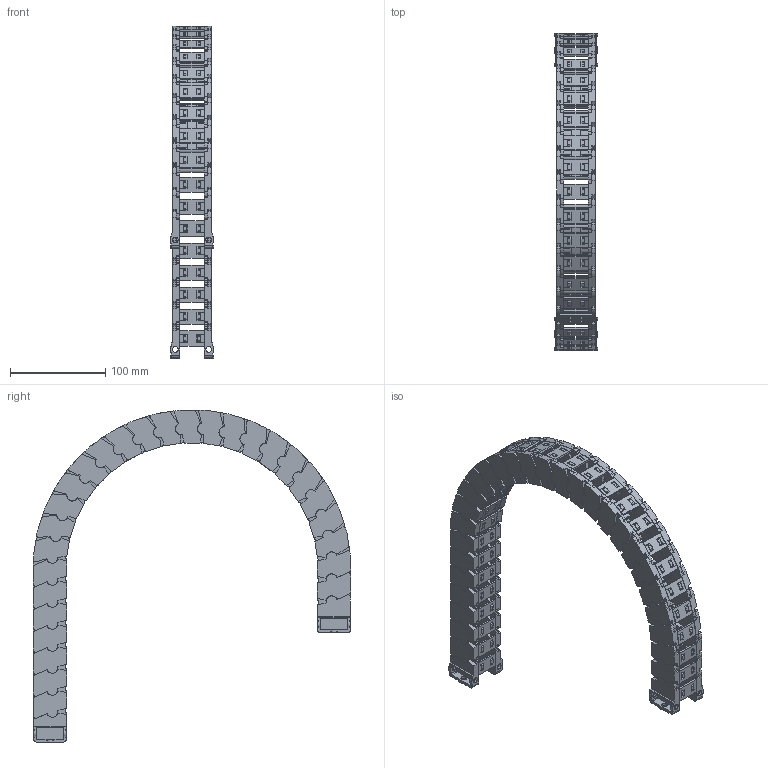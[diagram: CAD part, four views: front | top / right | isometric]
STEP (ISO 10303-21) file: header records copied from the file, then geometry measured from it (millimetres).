
FILE_DESCRIPTION((''),'2;1');
FILE_NAME('JY-25X25-R150_ASM','2022-05-07T11:14:07',('admin'),(''),'CREO PARAMETRIC BY PTC INC, 2021164','CREO PARAMETRIC BY PTC INC, 2021164','');
FILE_SCHEMA(('CONFIG_CONTROL_DESIGN','GEOMETRIC_VALIDATION_PROPERTIES_MIM'));
Length unit declared in the file: millimetre
Products named in the file (11): 25XL-L; 25-35XL-YP; 25XL-R; ASM0001_ASM; 25-LTT-A-L; 25-LTT-A-R; 25XL-LTT-A_ASM; 25-LTT-B-L; 25-LTT-B-R; 25XL-LTT-B_ASM; JY-25X25-R150_ASM
Assembly tree (42 placements, depth 3):
  JY-25X25-R150_ASM
    ASM0001_ASM  x28
      25XL-L
      25-35XL-YP
      25XL-R
    25XL-LTT-A_ASM
      25-LTT-A-L
      25-35XL-YP  x2
      25-LTT-A-R
    25XL-LTT-B_ASM
      25-LTT-B-L
      25-35XL-YP  x2
      25-LTT-B-R
Bounding box: 46.17 x 333.3 x 348.9 mm (x, y, z)
Volume: 407001.1 mm3; surface area: 308793.9 mm2
Topology: 120 solids, 148 shells, 6222 faces, 18602 edges, 12590 vertices
Faces by surface type: plane 4594, cylinder 1572, cone 56
Entity records: 24179 total; most frequent: CARTESIAN_POINT 3140, DIRECTION 3035, ORIENTED_EDGE 2962, EDGE_CURVE 1483, PRESENTATION_STYLE_ASSIGNMENT 1413, STYLED_ITEM 1381, VECTOR 1053, LINE 1053
